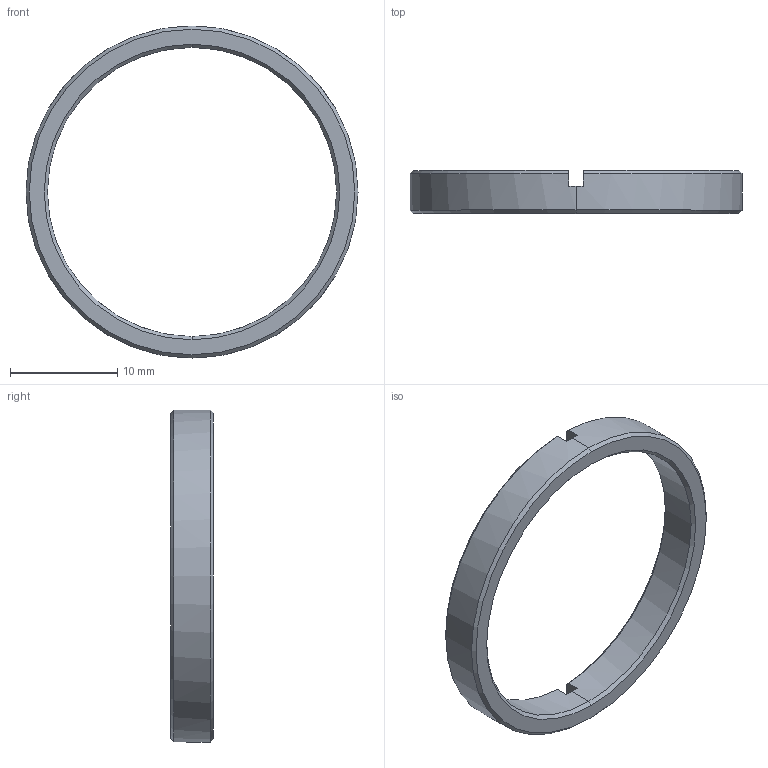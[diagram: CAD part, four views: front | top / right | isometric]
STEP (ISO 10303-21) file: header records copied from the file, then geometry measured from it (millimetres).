
FILE_DESCRIPTION (( 'STEP AP214' ), '1' );
FILE_NAME ('M31×1卡环.STEP', '2026-10-12T07:20:59', ( '' ), ( '' ), 'SwSTEP 2.0', 'SolidWorks 2024', '' );
FILE_SCHEMA (( 'AUTOMOTIVE_DESIGN' ));
Length unit declared in the file: millimetre
Products named in the file (1): M31×1卡环
Bounding box: 31 x 4 x 31 mm (x, y, z)
Volume: 704.3 mm3; surface area: 1033.5 mm2
Topology: 1 solids, 1 shells, 21 faces, 56 edges, 36 vertices
Faces by surface type: plane 9, cone 8, cylinder 4
Entity records: 697 total; most frequent: CARTESIAN_POINT 138, DIRECTION 116, ORIENTED_EDGE 112, EDGE_CURVE 56, AXIS2_PLACEMENT_3D 46, VERTEX_POINT 36, CIRCLE 24, VECTOR 24
